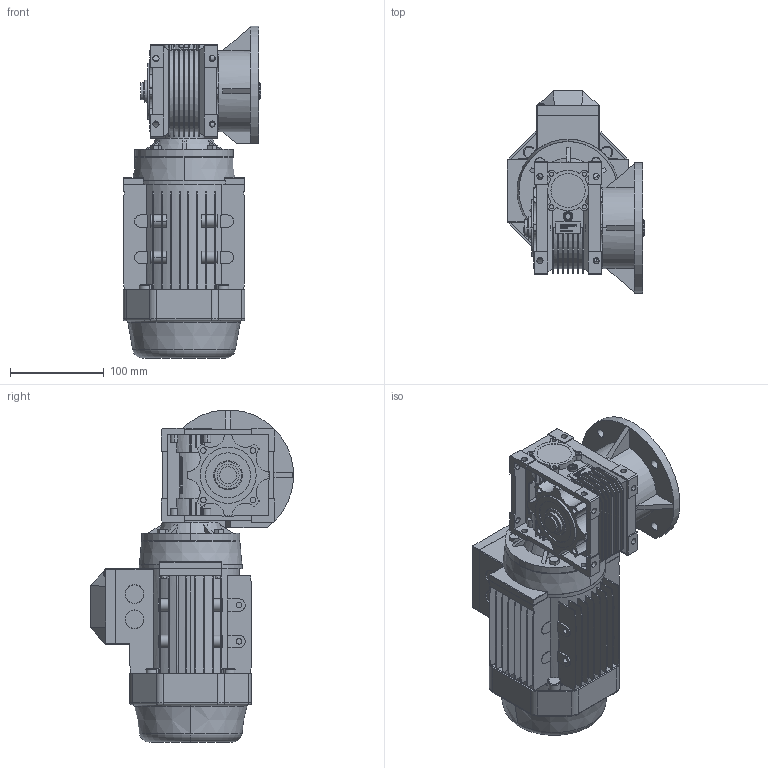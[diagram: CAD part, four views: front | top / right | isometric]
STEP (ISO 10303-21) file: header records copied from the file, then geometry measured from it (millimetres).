
FILE_DESCRIPTION (( 'STEP AP214' ), '1' );
FILE_NAME ('STP_NMRV040_单向输出轴SS1_18_71B14_FC_71_YS_1_无_输出法兰FC1_无或C2_无或C2_无.step', '2022-03-30T07:17:32', ( 'IT Division' ), ( 'IT' ), 'SwSTEP 2.0', 'SolidWorks 2016', '' );
FILE_SCHEMA (( 'AUTOMOTIVE_DESIGN' ));
Length unit declared in the file: millimetre
Products named in the file (3): STP_NMRV040_单向输出轴SS1_18_71B14_FC_71_YS_1_无_输出法兰FC1_无或C2_无或C2_无_IEC电机; STP_NMRV040_单向输出轴SS1_18_71B14_FC_71_YS_1_无_输出法兰FC1_无或C2_无或C2_无; STP_NMRV040_单向输出轴SS1_18_71B14_FC_71_YS_1_无_输出法兰FC1_无或C2_无或C2_无_NMRV
Assembly tree (2 placements, depth 2):
  STP_NMRV040_单向输出轴SS1_18_71B14_FC_71_YS_1_无_输出法兰FC1_无或C2_无或C2_无
    STP_NMRV040_单向输出轴SS1_18_71B14_FC_71_YS_1_无_输出法兰FC1_无或C2_无或C2_无_NMRV
    STP_NMRV040_单向输出轴SS1_18_71B14_FC_71_YS_1_无_输出法兰FC1_无或C2_无或C2_无_IEC电机
Bounding box: 147 x 216.85 x 354.74 mm (x, y, z)
Volume: 3162306.3 mm3; surface area: 491917.5 mm2
Topology: 6 solids, 6 shells, 3029 faces, 8024 edges, 5109 vertices
Faces by surface type: plane 1602, cylinder 702, bspline 435, sphere 135, torus 96, cone 59
Entity records: 114342 total; most frequent: CARTESIAN_POINT 40457, ORIENTED_EDGE 15882, DIRECTION 13726, EDGE_CURVE 7941, VERTEX_POINT 5107, LINE 5078, VECTOR 5078, AXIS2_PLACEMENT_3D 4324
